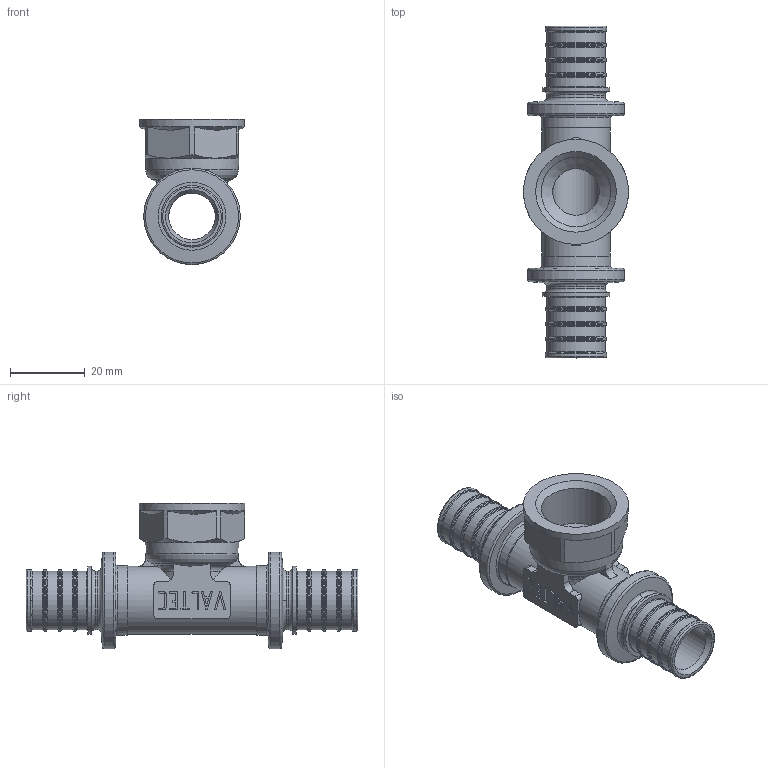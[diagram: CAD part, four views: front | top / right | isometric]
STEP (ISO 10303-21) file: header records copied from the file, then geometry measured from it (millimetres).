
FILE_DESCRIPTION(('STEP AP203'), '1');
FILE_NAME('ÂÐ.752249.017 - VTm.432.G.200420 Ôèò. òðîé. ñ ïåð', '', ('UNSPECIFIED'), ('UNSPECIFIED'), 'C3D Converter', 'C3D Toolkit', '');
FILE_SCHEMA(('CONFIG_CONTROL_DESIGN'));
Length unit declared in the file: millimetre
Products named in the file (1): ВР.752249.017
Bounding box: 28.2 x 89 x 38.95 mm (x, y, z)
Volume: 16779.4 mm3; surface area: 13007.6 mm2
Topology: 1 solids, 1 shells, 394 faces, 1042 edges, 666 vertices
Faces by surface type: extrusion 142, plane 129, torus 49, cylinder 46, cone 22, bspline 6
Full cylindrical faces by diameter (mm): 12.5 x2, 15.7 x10, 16.5 x8, 18.2 x2, 18.3 x1, 18.632 x1, 18.7 x2, 25 x1, 25.9 x2, 28.2 x1
Entity records: 17131 total; most frequent: CARTESIAN_POINT 5162, ORIENTED_EDGE 1916, DIRECTION 1376, EDGE_CURVE 958, VERTEX_POINT 666, VECTOR 592, EDGE_LOOP 498, B_SPLINE_CURVE_WITH_KNOTS 494
